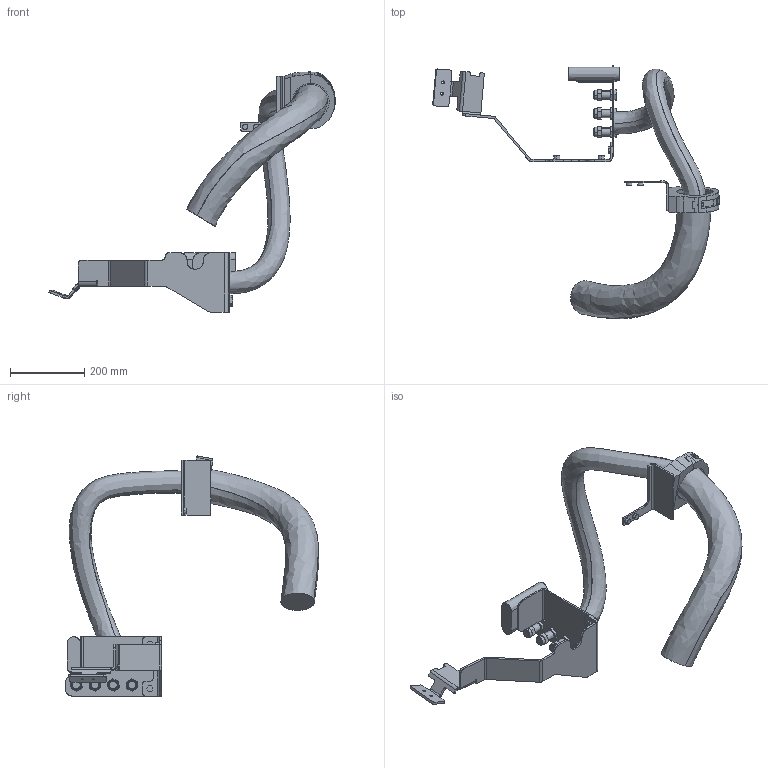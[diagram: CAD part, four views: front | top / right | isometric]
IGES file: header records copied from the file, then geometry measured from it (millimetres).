
Start section: SolidWorks IGES file using analytic representation for surfaces
Global section: file name: C:\Users\SEALDUN\OneDrive - ABB\Documents\R&D Robotics\Work Items\WI 632927\IGES\IRB5710-LID-SW_70kg-270_OC_02_IGES_J\IRB5710-LID-SW_70kg-270_OC_00_LINK03a_CABLE.igs; native system: SolidWorks 2024; preprocessor: SolidWorks 2024; author: SEALDUN; date: 250707.155106; units: millimetre
Bounding box: 773.03 x 684.33 x 648.27 mm (x, y, z)
Surface area: 698596.2 mm2 (no closed solid volume)
Topology: 0 solids, 0 shells, 497 faces, 7192 edges, 7191 vertices
Faces by surface type: bspline 318, revolution 179
